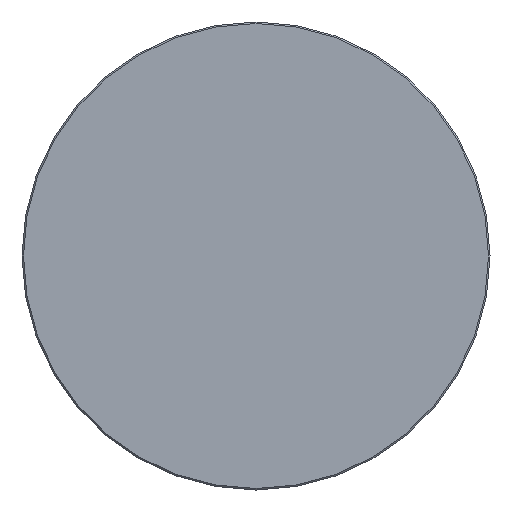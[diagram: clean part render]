
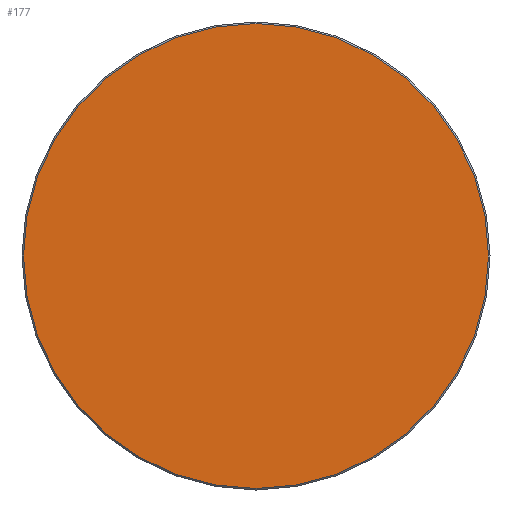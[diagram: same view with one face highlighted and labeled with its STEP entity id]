
A CAD part, left-side view. The second image highlights one B-rep face of the part: STEP entity #177.
In plain terms, the highlighted planar face has unit normal (-1, 0, 0).
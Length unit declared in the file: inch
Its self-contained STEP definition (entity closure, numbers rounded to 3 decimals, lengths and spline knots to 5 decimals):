
#11 = EDGE_LOOP ( 'NONE', ( #131, #155 ) ) ;
#14 = PLANE ( 'NONE',  #128 ) ;
#47 = DIRECTION ( 'NONE',  ( 0., -1., 0. ) ) ;
#50 = CARTESIAN_POINT ( 'NONE',  ( 0., 0., 0. ) ) ;
#69 = VERTEX_POINT ( 'NONE', #104 ) ;
#70 = CIRCLE ( 'NONE', #132, 0.621 ) ;
#104 = CARTESIAN_POINT ( 'NONE',  ( 0., 0.621, 0. ) ) ;
#117 = DIRECTION ( 'NONE',  ( 0., -1., 0. ) ) ;
#128 = AXIS2_PLACEMENT_3D ( 'NONE', #50, #228, #47 ) ;
#131 = ORIENTED_EDGE ( 'NONE', *, *, #314, .T. ) ;
#132 = AXIS2_PLACEMENT_3D ( 'NONE', #326, #350, #377 ) ;
#155 = ORIENTED_EDGE ( 'NONE', *, *, #252, .T. ) ;
#177 = ADVANCED_FACE ( 'NONE', ( #373 ), #14, .T. ) ;
#178 = AXIS2_PLACEMENT_3D ( 'NONE', #289, #313, #117 ) ;
#228 = DIRECTION ( 'NONE',  ( -1., 0., 0. ) ) ;
#252 = EDGE_CURVE ( 'NONE', #337, #69, #338, .T. ) ;
#289 = CARTESIAN_POINT ( 'NONE',  ( 0., 0., 0. ) ) ;
#313 = DIRECTION ( 'NONE',  ( -1., 0., 0. ) ) ;
#314 = EDGE_CURVE ( 'NONE', #69, #337, #70, .T. ) ;
#320 = CARTESIAN_POINT ( 'NONE',  ( 0., -0.621, 0. ) ) ;
#326 = CARTESIAN_POINT ( 'NONE',  ( 0., 0., 0. ) ) ;
#337 = VERTEX_POINT ( 'NONE', #320 ) ;
#338 = CIRCLE ( 'NONE', #178, 0.621 ) ;
#350 = DIRECTION ( 'NONE',  ( -1., 0., 0. ) ) ;
#373 = FACE_OUTER_BOUND ( 'NONE', #11, .T. ) ;
#377 = DIRECTION ( 'NONE',  ( 0., -1., 0. ) ) ;
